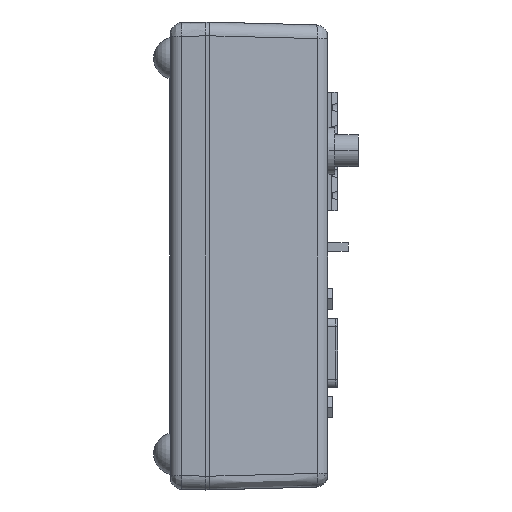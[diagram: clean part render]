
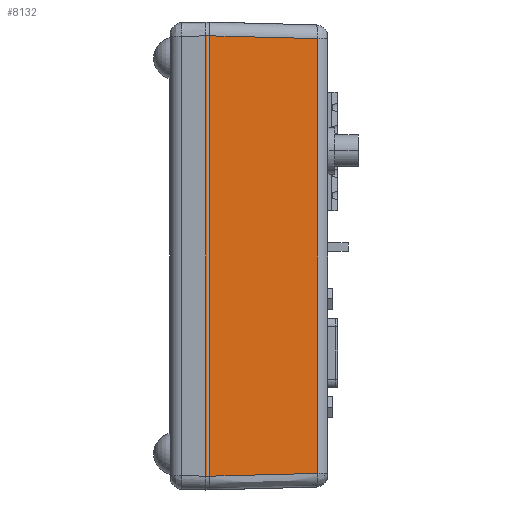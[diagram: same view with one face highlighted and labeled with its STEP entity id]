
A CAD part, left-side view. The second image highlights one B-rep face of the part: STEP entity #8132.
In plain terms, the highlighted cylindrical face has radius 190.5 mm (diameter 381 mm), a partial arc.
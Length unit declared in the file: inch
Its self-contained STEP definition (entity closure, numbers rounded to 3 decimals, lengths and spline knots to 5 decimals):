
#3032=DIRECTION('',(0.,0.,1.));
#3033=VECTOR('',#3032,4.00925);
#3034=CARTESIAN_POINT('',(-4.03973,-0.015,
-2.00463));
#3035=LINE('',#3034,#3033);
#3036=CARTESIAN_POINT('',(-4.03973,-0.015,
2.00463));
#3037=CARTESIAN_POINT('',(-4.03762,-0.12849,
2.0017));
#3038=CARTESIAN_POINT('',(-4.02822,-0.35538,
1.99586));
#3039=CARTESIAN_POINT('',(-3.9987,-0.69473,
1.98712));
#3040=CARTESIAN_POINT('',(-3.96878,-0.91982,
1.98133));
#3041=CARTESIAN_POINT('',(-3.95127,-1.03197,
1.97844));
#3043=CARTESIAN_POINT('',(-3.95127,-1.03197,
-1.97844));
#3044=CARTESIAN_POINT('',(-4.0038,-0.69552,
-1.9871));
#3045=CARTESIAN_POINT('',(-4.03338,-0.35545,
-1.99586));
#3046=CARTESIAN_POINT('',(-4.03973,-0.015,
-2.00463));
#3114=DIRECTION('',(0.,0.,1.));
#3115=VECTOR('',#3114,3.95688);
#3116=CARTESIAN_POINT('',(-3.95127,-1.03197,
-1.97844));
#3117=LINE('',#3116,#3115);
#3501=CARTESIAN_POINT('',(-4.03973,-0.015,
-2.00463));
#3502=CARTESIAN_POINT('',(-4.03973,-0.015,
2.00463));
#3503=VERTEX_POINT('',#3501);
#3504=VERTEX_POINT('',#3502);
#3505=VERTEX_POINT('',#3041);
#3506=CARTESIAN_POINT('',(-3.95127,-1.03197,
-1.97844));
#3507=VERTEX_POINT('',#3506);
#8118=CARTESIAN_POINT('',(3.45896,0.125,-2.08481));
#8119=DIRECTION('',(0.,0.,1.));
#8120=DIRECTION('',(1.,0.,0.));
#8121=AXIS2_PLACEMENT_3D('',#8118,#8119,#8120);
#8122=CYLINDRICAL_SURFACE('',#8121,7.5);
#8124=ORIENTED_EDGE('',*,*,#8123,.T.);
#8126=ORIENTED_EDGE('',*,*,#8125,.T.);
#8128=ORIENTED_EDGE('',*,*,#8127,.F.);
#8129=ORIENTED_EDGE('',*,*,#8110,.T.);
#8130=EDGE_LOOP('',(#8124,#8126,#8128,#8129));
#8131=FACE_OUTER_BOUND('',#8130,.F.);
#8132=ADVANCED_FACE('',(#8131),#8122,.T.);
#3042=B_SPLINE_CURVE_WITH_KNOTS('',3,(#3036,#3037,#3038,#3039,#3040,#3041),
.UNSPECIFIED.,.F.,.F.,(4,1,1,4),(0.,0.33333,0.66667,1.),
.UNSPECIFIED.);
#3047=B_SPLINE_CURVE_WITH_KNOTS('',3,(#3043,#3044,#3045,#3046),.UNSPECIFIED.,
.F.,.F.,(4,4),(0.,1.),.UNSPECIFIED.);
#8110=EDGE_CURVE('',#3507,#3503,#3047,.T.);
#8123=EDGE_CURVE('',#3503,#3504,#3035,.T.);
#8125=EDGE_CURVE('',#3504,#3505,#3042,.T.);
#8127=EDGE_CURVE('',#3507,#3505,#3117,.T.);
